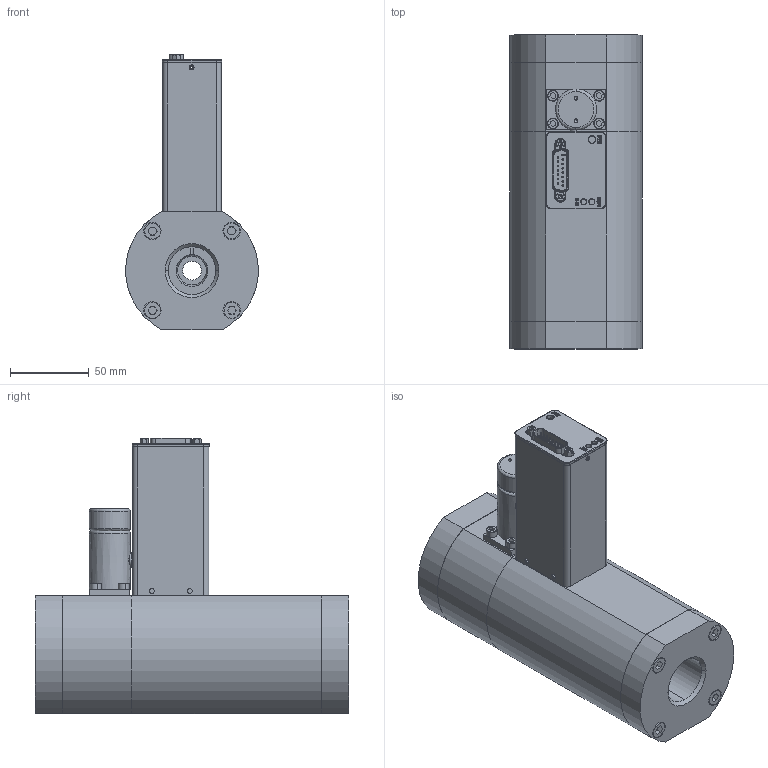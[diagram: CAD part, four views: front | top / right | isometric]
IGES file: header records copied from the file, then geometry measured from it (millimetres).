
Start section: SolidWorks IGES file using analytic representation for surfaces
Global section: file name: G:\Engineering\CAD MODELS FOR SALES\CAD MODEL STORAGE\SLA\SLA5853\IGES\SLA5853-S-2P-2-C-REVB.IGS; native system: SolidWorks 2019; preprocessor: SolidWorks 2019; author: CFehr; date: 200416.160201; units: inch
Bounding box: 83.7 x 198.8 x 174.37 mm (x, y, z)
Volume: 730348.7 mm3; surface area: 198140.6 mm2
Topology: 27 solids, 27 shells, 1449 faces, 3745 edges, 2318 vertices
Faces by surface type: revolution 768, plane 549, bspline 132
